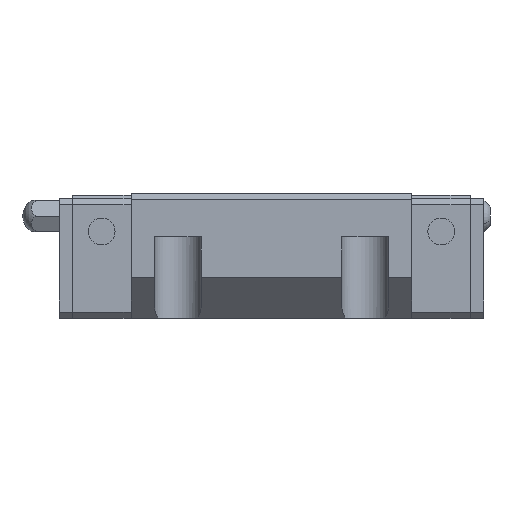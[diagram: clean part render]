
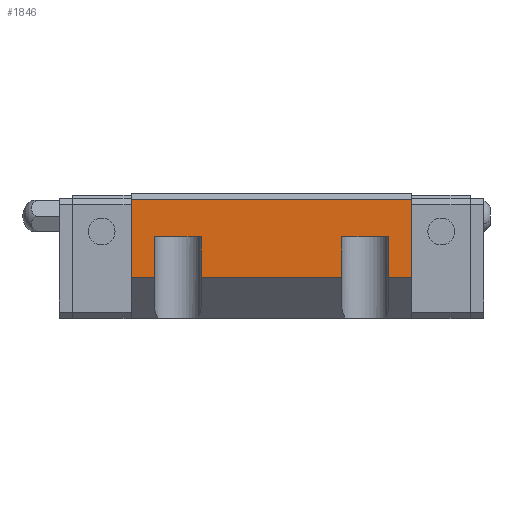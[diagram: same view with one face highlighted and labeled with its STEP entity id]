
A CAD part, top view. The second image highlights one B-rep face of the part: STEP entity #1846.
In plain terms, the highlighted planar face has unit normal (0, 0, 1).
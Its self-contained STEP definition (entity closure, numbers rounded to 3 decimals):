
#113 = LINE ( 'NONE', #682, #3889 ) ;
#123 = DIRECTION ( 'NONE',  ( 1., 0., 0. ) ) ;
#186 = CARTESIAN_POINT ( 'NONE',  ( 11.25, 0.65, 23.5 ) ) ;
#210 = DIRECTION ( 'NONE',  ( 0., 1., 0. ) ) ;
#217 = ORIENTED_EDGE ( 'NONE', *, *, #921, .T. ) ;
#319 = VECTOR ( 'NONE', #7407, 1000. ) ;
#476 = CARTESIAN_POINT ( 'NONE',  ( 22.5, 6.5, 23.5 ) ) ;
#509 = CARTESIAN_POINT ( 'NONE',  ( -18.75, 0.65, 23.5 ) ) ;
#682 = CARTESIAN_POINT ( 'NONE',  ( -22.5, 6.5, 23.5 ) ) ;
#719 = EDGE_CURVE ( 'NONE', #810, #1526, #4883, .T. ) ;
#810 = VERTEX_POINT ( 'NONE', #5621 ) ;
#921 = EDGE_CURVE ( 'NONE', #2852, #1128, #3046, .T. ) ;
#945 = LINE ( 'NONE', #2322, #7334 ) ;
#1041 = LINE ( 'NONE', #5162, #4113 ) ;
#1128 = VERTEX_POINT ( 'NONE', #6260 ) ;
#1447 = CARTESIAN_POINT ( 'NONE',  ( -38.75, 0.55, 23.5 ) ) ;
#1505 = VERTEX_POINT ( 'NONE', #8384 ) ;
#1526 = VERTEX_POINT ( 'NONE', #2926 ) ;
#1667 = VERTEX_POINT ( 'NONE', #8594 ) ;
#1714 = EDGE_LOOP ( 'NONE', ( #6252, #2149, #7743, #2651, #217, #8163, #3607, #8643, #7981, #6638, #8137, #8143 ) ) ;
#1801 = EDGE_CURVE ( 'NONE', #1505, #4533, #8096, .T. ) ;
#1837 = VERTEX_POINT ( 'NONE', #3274 ) ;
#1846 = ADVANCED_FACE ( 'NONE', ( #7659 ), #3538, .T. ) ;
#1882 = LINE ( 'NONE', #509, #4719 ) ;
#1934 = VECTOR ( 'NONE', #8238, 1000. ) ;
#2149 = ORIENTED_EDGE ( 'NONE', *, *, #1801, .T. ) ;
#2178 = EDGE_CURVE ( 'NONE', #3777, #4533, #2542, .T. ) ;
#2209 = LINE ( 'NONE', #1447, #4163 ) ;
#2263 = CARTESIAN_POINT ( 'NONE',  ( 11.25, -6., 23.5 ) ) ;
#2275 = DIRECTION ( 'NONE',  ( 0., -1., 0. ) ) ;
#2322 = CARTESIAN_POINT ( 'NONE',  ( 22.5, 6.5, 23.5 ) ) ;
#2493 = DIRECTION ( 'NONE',  ( -1., 0., 0. ) ) ;
#2542 = LINE ( 'NONE', #7947, #7655 ) ;
#2580 = VECTOR ( 'NONE', #2493, 1000. ) ;
#2651 = ORIENTED_EDGE ( 'NONE', *, *, #3327, .F. ) ;
#2725 = VERTEX_POINT ( 'NONE', #2263 ) ;
#2730 = DIRECTION ( 'NONE',  ( -1., 0., 0. ) ) ;
#2852 = VERTEX_POINT ( 'NONE', #476 ) ;
#2926 = CARTESIAN_POINT ( 'NONE',  ( -11.25, 0.55, 23.5 ) ) ;
#3028 = VERTEX_POINT ( 'NONE', #4799 ) ;
#3046 = LINE ( 'NONE', #3918, #2580 ) ;
#3200 = EDGE_CURVE ( 'NONE', #1128, #1837, #113, .T. ) ;
#3274 = CARTESIAN_POINT ( 'NONE',  ( -22.5, -6., 23.5 ) ) ;
#3327 = EDGE_CURVE ( 'NONE', #2852, #3777, #945, .T. ) ;
#3538 = PLANE ( 'NONE',  #6589 ) ;
#3607 = ORIENTED_EDGE ( 'NONE', *, *, #4150, .F. ) ;
#3620 = DIRECTION ( 'NONE',  ( 1., 0., 0. ) ) ;
#3700 = EDGE_CURVE ( 'NONE', #1526, #1667, #7001, .T. ) ;
#3777 = VERTEX_POINT ( 'NONE', #7832 ) ;
#3788 = DIRECTION ( 'NONE',  ( -1., 0., 0. ) ) ;
#3889 = VECTOR ( 'NONE', #8763, 1000. ) ;
#3918 = CARTESIAN_POINT ( 'NONE',  ( 22.5, 6.5, 23.5 ) ) ;
#3935 = DIRECTION ( 'NONE',  ( 0., -1., 0. ) ) ;
#4058 = VERTEX_POINT ( 'NONE', #7565 ) ;
#4113 = VECTOR ( 'NONE', #3788, 1000. ) ;
#4150 = EDGE_CURVE ( 'NONE', #3028, #1837, #1041, .T. ) ;
#4163 = VECTOR ( 'NONE', #3620, 1000. ) ;
#4533 = VERTEX_POINT ( 'NONE', #7733 ) ;
#4649 = DIRECTION ( 'NONE',  ( 0., -1., 0. ) ) ;
#4719 = VECTOR ( 'NONE', #4649, 1000. ) ;
#4799 = CARTESIAN_POINT ( 'NONE',  ( -18.75, -6., 23.5 ) ) ;
#4883 = LINE ( 'NONE', #6281, #6857 ) ;
#4971 = CARTESIAN_POINT ( 'NONE',  ( -11.25, 0.65, 23.5 ) ) ;
#5007 = EDGE_CURVE ( 'NONE', #4058, #2725, #5061, .T. ) ;
#5022 = DIRECTION ( 'NONE',  ( 0., -1., 0. ) ) ;
#5061 = LINE ( 'NONE', #186, #8347 ) ;
#5162 = CARTESIAN_POINT ( 'NONE',  ( -18.75, -6., 23.5 ) ) ;
#5621 = CARTESIAN_POINT ( 'NONE',  ( -18.75, 0.55, 23.5 ) ) ;
#6213 = LINE ( 'NONE', #8210, #319 ) ;
#6252 = ORIENTED_EDGE ( 'NONE', *, *, #7708, .T. ) ;
#6260 = CARTESIAN_POINT ( 'NONE',  ( -22.5, 6.5, 23.5 ) ) ;
#6281 = CARTESIAN_POINT ( 'NONE',  ( -38.75, 0.55, 23.5 ) ) ;
#6282 = DIRECTION ( 'NONE',  ( 0., 0., 1. ) ) ;
#6589 = AXIS2_PLACEMENT_3D ( 'NONE', #8233, #6282, #210 ) ;
#6638 = ORIENTED_EDGE ( 'NONE', *, *, #3700, .T. ) ;
#6857 = VECTOR ( 'NONE', #123, 1000. ) ;
#6882 = VECTOR ( 'NONE', #3935, 1000. ) ;
#7001 = LINE ( 'NONE', #4971, #1934 ) ;
#7334 = VECTOR ( 'NONE', #2275, 1000. ) ;
#7407 = DIRECTION ( 'NONE',  ( -1., 0., 0. ) ) ;
#7565 = CARTESIAN_POINT ( 'NONE',  ( 11.25, 0.55, 23.5 ) ) ;
#7655 = VECTOR ( 'NONE', #2730, 1000. ) ;
#7659 = FACE_OUTER_BOUND ( 'NONE', #1714, .T. ) ;
#7708 = EDGE_CURVE ( 'NONE', #4058, #1505, #2209, .T. ) ;
#7733 = CARTESIAN_POINT ( 'NONE',  ( 18.75, -6., 23.5 ) ) ;
#7743 = ORIENTED_EDGE ( 'NONE', *, *, #2178, .F. ) ;
#7832 = CARTESIAN_POINT ( 'NONE',  ( 22.5, -6., 23.5 ) ) ;
#7947 = CARTESIAN_POINT ( 'NONE',  ( 22.5, -6., 23.5 ) ) ;
#7981 = ORIENTED_EDGE ( 'NONE', *, *, #719, .T. ) ;
#8005 = CARTESIAN_POINT ( 'NONE',  ( 18.75, 0.65, 23.5 ) ) ;
#8083 = EDGE_CURVE ( 'NONE', #810, #3028, #1882, .T. ) ;
#8096 = LINE ( 'NONE', #8005, #6882 ) ;
#8137 = ORIENTED_EDGE ( 'NONE', *, *, #8508, .F. ) ;
#8143 = ORIENTED_EDGE ( 'NONE', *, *, #5007, .F. ) ;
#8163 = ORIENTED_EDGE ( 'NONE', *, *, #3200, .T. ) ;
#8210 = CARTESIAN_POINT ( 'NONE',  ( 11.25, -6., 23.5 ) ) ;
#8233 = CARTESIAN_POINT ( 'NONE',  ( -22.5, -6., 23.5 ) ) ;
#8238 = DIRECTION ( 'NONE',  ( 0., -1., 0. ) ) ;
#8347 = VECTOR ( 'NONE', #5022, 1000. ) ;
#8384 = CARTESIAN_POINT ( 'NONE',  ( 18.75, 0.55, 23.5 ) ) ;
#8508 = EDGE_CURVE ( 'NONE', #2725, #1667, #6213, .T. ) ;
#8594 = CARTESIAN_POINT ( 'NONE',  ( -11.25, -6., 23.5 ) ) ;
#8643 = ORIENTED_EDGE ( 'NONE', *, *, #8083, .F. ) ;
#8763 = DIRECTION ( 'NONE',  ( 0., -1., 0. ) ) ;
